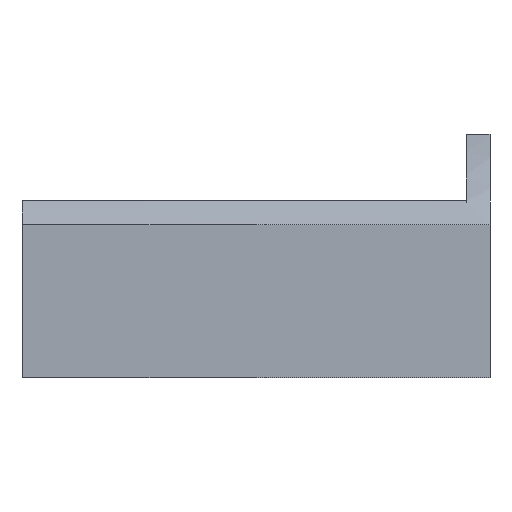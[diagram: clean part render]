
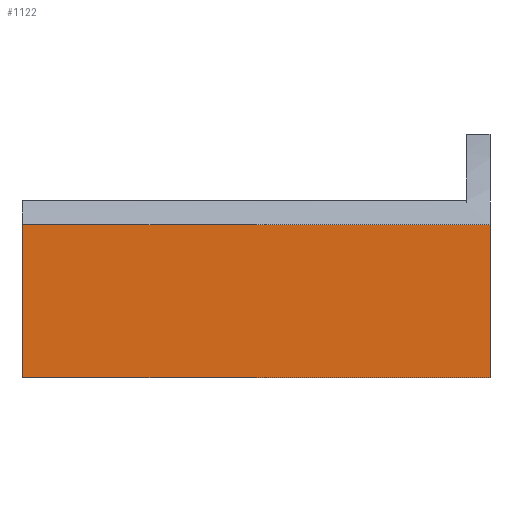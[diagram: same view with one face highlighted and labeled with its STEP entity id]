
A CAD part, front view. The second image highlights one B-rep face of the part: STEP entity #1122.
In plain terms, the highlighted planar face has unit normal (0, -1, 0).
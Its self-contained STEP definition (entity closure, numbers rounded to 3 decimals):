
#21 = EDGE_CURVE('',#22,#24,#26,.T.);
#22 = VERTEX_POINT('',#23);
#23 = CARTESIAN_POINT('',(160.7,-14.,4.9));
#24 = VERTEX_POINT('',#25);
#25 = CARTESIAN_POINT('',(160.7,-14.,12.697));
#26 = SURFACE_CURVE('',#27,(#31,#43),.PCURVE_S1.);
#27 = LINE('',#28,#29);
#28 = CARTESIAN_POINT('',(160.7,-14.,4.9));
#29 = VECTOR('',#30,1.);
#30 = DIRECTION('',(0.,0.,1.));
#31 = PCURVE('',#32,#37);
#32 = PLANE('',#33);
#33 = AXIS2_PLACEMENT_3D('',#34,#35,#36);
#34 = CARTESIAN_POINT('',(160.7,-14.,4.9));
#35 = DIRECTION('',(1.,0.,-0.));
#36 = DIRECTION('',(0.,0.,1.));
#37 = DEFINITIONAL_REPRESENTATION('',(#38),#42);
#38 = LINE('',#39,#40);
#39 = CARTESIAN_POINT('',(0.,0.));
#40 = VECTOR('',#41,1.);
#41 = DIRECTION('',(1.,0.));
#42 = ( GEOMETRIC_REPRESENTATION_CONTEXT(2) 
PARAMETRIC_REPRESENTATION_CONTEXT() REPRESENTATION_CONTEXT('2D SPACE',''
  ) );
#43 = PCURVE('',#44,#49);
#44 = PLANE('',#45);
#45 = AXIS2_PLACEMENT_3D('',#46,#47,#48);
#46 = CARTESIAN_POINT('',(160.7,-14.,4.9));
#47 = DIRECTION('',(-0.,1.,0.));
#48 = DIRECTION('',(0.,0.,1.));
#49 = DEFINITIONAL_REPRESENTATION('',(#50),#54);
#50 = LINE('',#51,#52);
#51 = CARTESIAN_POINT('',(0.,0.));
#52 = VECTOR('',#53,1.);
#53 = DIRECTION('',(1.,0.));
#54 = ( GEOMETRIC_REPRESENTATION_CONTEXT(2) 
PARAMETRIC_REPRESENTATION_CONTEXT() REPRESENTATION_CONTEXT('2D SPACE',''
  ) );
#72 = PLANE('',#73);
#73 = AXIS2_PLACEMENT_3D('',#74,#75,#76);
#74 = CARTESIAN_POINT('',(160.7,-14.,4.9));
#75 = DIRECTION('',(0.,0.,1.));
#76 = DIRECTION('',(1.,0.,-0.));
#187 = CYLINDRICAL_SURFACE('',#188,18.9);
#188 = AXIS2_PLACEMENT_3D('',#189,#190,#191);
#189 = CARTESIAN_POINT('',(140.5,0.,0.));
#190 = DIRECTION('',(1.,0.,0.));
#191 = DIRECTION('',(-0.,0.,1.));
#203 = VERTEX_POINT('',#204);
#204 = CARTESIAN_POINT('',(184.5,-14.,12.697));
#221 = PLANE('',#222);
#222 = AXIS2_PLACEMENT_3D('',#223,#224,#225);
#223 = CARTESIAN_POINT('',(184.5,-14.,4.9));
#224 = DIRECTION('',(1.,0.,-0.));
#225 = DIRECTION('',(0.,0.,1.));
#313 = EDGE_CURVE('',#203,#24,#314,.T.);
#314 = SURFACE_CURVE('',#315,(#319,#326),.PCURVE_S1.);
#315 = LINE('',#316,#317);
#316 = CARTESIAN_POINT('',(184.5,-14.,12.697));
#317 = VECTOR('',#318,1.);
#318 = DIRECTION('',(-1.,0.,0.));
#319 = PCURVE('',#187,#320);
#320 = DEFINITIONAL_REPRESENTATION('',(#321),#325);
#321 = LINE('',#322,#323);
#322 = CARTESIAN_POINT('',(0.834,44.));
#323 = VECTOR('',#324,1.);
#324 = DIRECTION('',(-0.,-1.));
#325 = ( GEOMETRIC_REPRESENTATION_CONTEXT(2) 
PARAMETRIC_REPRESENTATION_CONTEXT() REPRESENTATION_CONTEXT('2D SPACE',''
  ) );
#326 = PCURVE('',#44,#327);
#327 = DEFINITIONAL_REPRESENTATION('',(#328),#332);
#328 = LINE('',#329,#330);
#329 = CARTESIAN_POINT('',(7.797,23.8));
#330 = VECTOR('',#331,1.);
#331 = DIRECTION('',(0.,-1.));
#332 = ( GEOMETRIC_REPRESENTATION_CONTEXT(2) 
PARAMETRIC_REPRESENTATION_CONTEXT() REPRESENTATION_CONTEXT('2D SPACE',''
  ) );
#964 = EDGE_CURVE('',#965,#203,#967,.T.);
#965 = VERTEX_POINT('',#966);
#966 = CARTESIAN_POINT('',(184.5,-14.,4.9));
#967 = SURFACE_CURVE('',#968,(#972,#979),.PCURVE_S1.);
#968 = LINE('',#969,#970);
#969 = CARTESIAN_POINT('',(184.5,-14.,4.9));
#970 = VECTOR('',#971,1.);
#971 = DIRECTION('',(0.,0.,1.));
#972 = PCURVE('',#221,#973);
#973 = DEFINITIONAL_REPRESENTATION('',(#974),#978);
#974 = LINE('',#975,#976);
#975 = CARTESIAN_POINT('',(0.,0.));
#976 = VECTOR('',#977,1.);
#977 = DIRECTION('',(1.,0.));
#978 = ( GEOMETRIC_REPRESENTATION_CONTEXT(2) 
PARAMETRIC_REPRESENTATION_CONTEXT() REPRESENTATION_CONTEXT('2D SPACE',''
  ) );
#979 = PCURVE('',#44,#980);
#980 = DEFINITIONAL_REPRESENTATION('',(#981),#985);
#981 = LINE('',#982,#983);
#982 = CARTESIAN_POINT('',(0.,23.8));
#983 = VECTOR('',#984,1.);
#984 = DIRECTION('',(1.,0.));
#985 = ( GEOMETRIC_REPRESENTATION_CONTEXT(2) 
PARAMETRIC_REPRESENTATION_CONTEXT() REPRESENTATION_CONTEXT('2D SPACE',''
  ) );
#1095 = EDGE_CURVE('',#22,#965,#1096,.T.);
#1096 = SURFACE_CURVE('',#1097,(#1101,#1108),.PCURVE_S1.);
#1097 = LINE('',#1098,#1099);
#1098 = CARTESIAN_POINT('',(160.7,-14.,4.9));
#1099 = VECTOR('',#1100,1.);
#1100 = DIRECTION('',(1.,0.,0.));
#1101 = PCURVE('',#72,#1102);
#1102 = DEFINITIONAL_REPRESENTATION('',(#1103),#1107);
#1103 = LINE('',#1104,#1105);
#1104 = CARTESIAN_POINT('',(0.,0.));
#1105 = VECTOR('',#1106,1.);
#1106 = DIRECTION('',(1.,0.));
#1107 = ( GEOMETRIC_REPRESENTATION_CONTEXT(2) 
PARAMETRIC_REPRESENTATION_CONTEXT() REPRESENTATION_CONTEXT('2D SPACE',''
  ) );
#1108 = PCURVE('',#44,#1109);
#1109 = DEFINITIONAL_REPRESENTATION('',(#1110),#1114);
#1110 = LINE('',#1111,#1112);
#1111 = CARTESIAN_POINT('',(0.,0.));
#1112 = VECTOR('',#1113,1.);
#1113 = DIRECTION('',(0.,1.));
#1114 = ( GEOMETRIC_REPRESENTATION_CONTEXT(2) 
PARAMETRIC_REPRESENTATION_CONTEXT() REPRESENTATION_CONTEXT('2D SPACE',''
  ) );
#1122 = ADVANCED_FACE('',(#1123),#44,.F.);
#1123 = FACE_BOUND('',#1124,.F.);
#1124 = EDGE_LOOP('',(#1125,#1126,#1127,#1128));
#1125 = ORIENTED_EDGE('',*,*,#1095,.F.);
#1126 = ORIENTED_EDGE('',*,*,#21,.T.);
#1127 = ORIENTED_EDGE('',*,*,#313,.F.);
#1128 = ORIENTED_EDGE('',*,*,#964,.F.);
